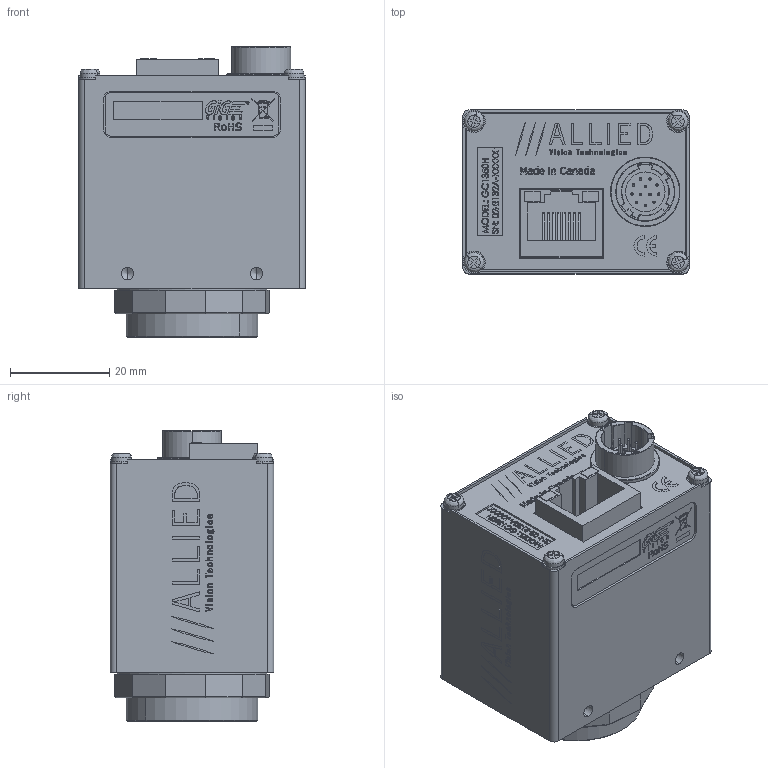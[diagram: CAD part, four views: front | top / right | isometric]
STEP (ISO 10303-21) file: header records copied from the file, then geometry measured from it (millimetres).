
FILE_DESCRIPTION (( 'STEP AP214' ), '1' );
FILE_NAME ('GC1350H.STEP', '2013-07-31T19:04:53', ( '' ), ( '' ), 'SwSTEP 2.0', 'SolidWorks 2013', '' );
FILE_SCHEMA (( 'AUTOMOTIVE_DESIGN' ));
Length unit declared in the file: millimetre
Products named in the file (19): 260034-HIROSE HR10A-10R-12PB; 200047A-A GC INTERFACE PCB ASSY; 260033-AMPHENOL RJHS-3381; 740032B-GC MAIN LABEL; 140017-SCREW PAN M2x4 SS; 110043A GC BACK PLATE; 110043A GC BACK PLATE - WO HW; 140013-washer spring lock M2; 140023-SCREW SKT CAP M2x10 SS; GC1350H; Sony ICX205 WINDOW; Sony ICX205 BODY; 220052-SONY ICX205AL; 740123A-GC MAC LABEL; 110031A-B EC-CCD LOCKING RING; 110003AC-CV CMOUNT RING; 110045B-EC-CCD DUST SHIELD GASKET; 740074A-GC1350H LABEL PRINT; 110042C GC-CCD FRONT_Finished with logo
Assembly tree (27 placements, depth 3):
  GC1350H
    140023-SCREW SKT CAP M2x10 SS  x2
    140013-washer spring lock M2  x6
    110043A GC BACK PLATE
      110043A GC BACK PLATE - WO HW
    140017-SCREW PAN M2x4 SS  x4
    740032B-GC MAIN LABEL
    200047A-A GC INTERFACE PCB ASSY
      260033-AMPHENOL RJHS-3381
    260034-HIROSE HR10A-10R-12PB
    110042C GC-CCD FRONT_Finished with logo
    740074A-GC1350H LABEL PRINT
    110045B-EC-CCD DUST SHIELD GASKET
    110003AC-CV CMOUNT RING
    110031A-B EC-CCD LOCKING RING
    740123A-GC MAC LABEL
    220052-SONY ICX205AL
      Sony ICX205 BODY
      Sony ICX205 WINDOW
Bounding box: 45.72 x 33.02 x 58.62 mm (x, y, z)
Volume: 22469.5 mm3; surface area: 32152.2 mm2
Topology: 24 solids, 24 shells, 3236 faces, 8512 edges, 5534 vertices
Faces by surface type: plane 1842, bspline 918, cylinder 296, cone 180
Entity records: 162569 total; most frequent: CARTESIAN_POINT 57079, ORIENTED_EDGE 16200, DIRECTION 11458, EDGE_CURVE 8100, VECTOR 5590, LINE 5590, VERTEX_POINT 5316, EDGE_LOOP 3428
